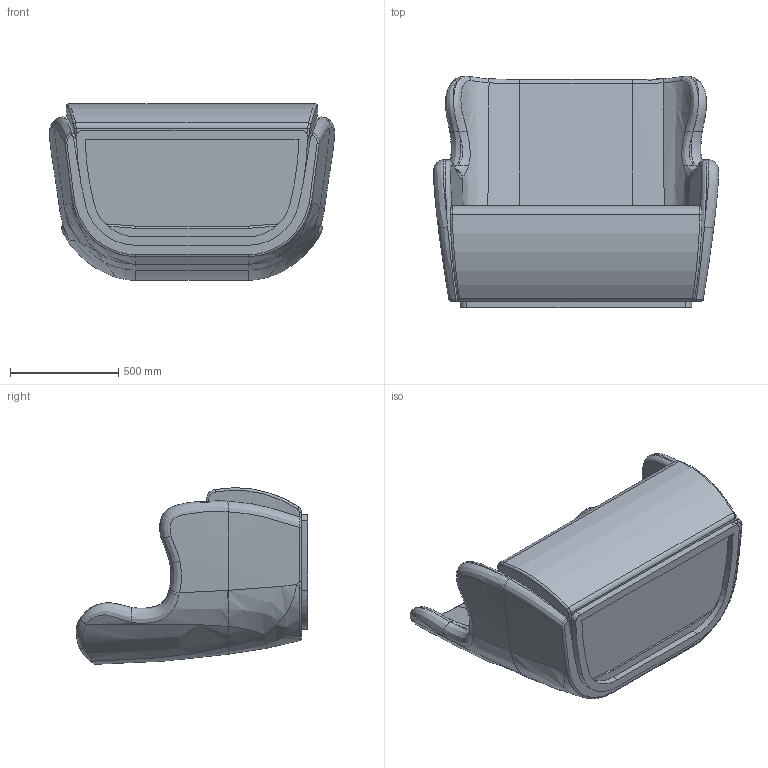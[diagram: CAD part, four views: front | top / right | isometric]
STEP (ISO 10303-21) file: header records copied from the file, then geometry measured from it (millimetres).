
FILE_DESCRIPTION (( 'STEP AP203' ), '1' );
FILE_NAME ('GIBSON PLUS high back - 2-seater (simple).STEP', '2026-07-14T07:39:08', ( '' ), ( '' ), 'SwSTEP 2.0', 'SolidWorks 2026', '' );
FILE_SCHEMA (( 'CONFIG_CONTROL_DESIGN' ));
Length unit declared in the file: millimetre
Products named in the file (1): GIBSON PLUS high back - 2-seater (simple)
Bounding box: 1316.29 x 1070.01 x 814.72 mm (x, y, z)
Volume: 319165652.1 mm3; surface area: 8644989.7 mm2
Topology: 3 solids, 3 shells, 198 faces, 508 edges, 308 vertices
Faces by surface type: bspline 148, plane 25, cylinder 25
Entity records: 27054 total; most frequent: CARTESIAN_POINT 23437, ORIENTED_EDGE 1000, EDGE_CURVE 500, DIRECTION 330, B_SPLINE_CURVE_WITH_KNOTS 325, VERTEX_POINT 308, EDGE_LOOP 200, ADVANCED_FACE 198
